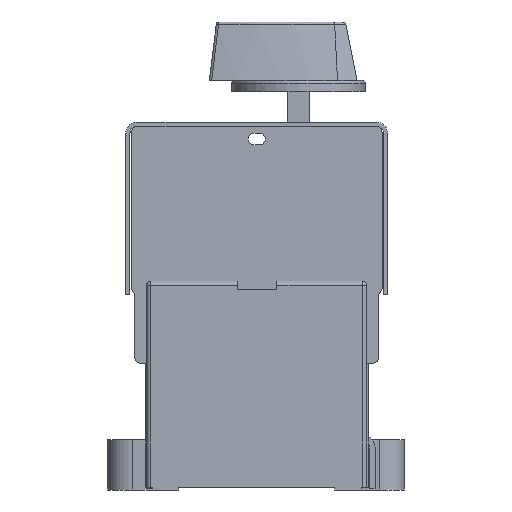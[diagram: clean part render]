
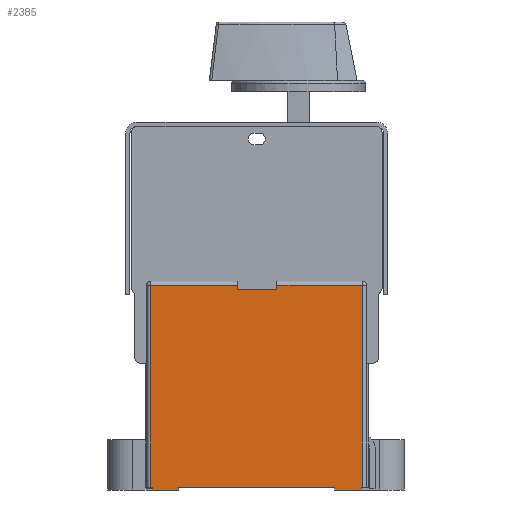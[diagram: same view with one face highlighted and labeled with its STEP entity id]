
A CAD part, left-side view. The second image highlights one B-rep face of the part: STEP entity #2385.
In plain terms, the highlighted planar face has unit normal (-1, 0, 0).
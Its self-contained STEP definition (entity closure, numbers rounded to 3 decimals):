
#2385=ADVANCED_FACE('',(#4009),#3057,.F.);
#3057=PLANE('',#21612);
#4009=FACE_OUTER_BOUND('',#5214,.T.);
#5214=EDGE_LOOP('',(#10374,#10375,#10376,#10377,#10378,#10379,#10380,#10381,
#10382,#10383,#10384,#10385,#10386,#10387,#10388,#10389));
#10374=ORIENTED_EDGE('',*,*,#15669,.F.);
#10375=ORIENTED_EDGE('',*,*,#15457,.T.);
#10376=ORIENTED_EDGE('',*,*,#15281,.T.);
#10377=ORIENTED_EDGE('',*,*,#15671,.F.);
#10378=ORIENTED_EDGE('',*,*,#15284,.T.);
#10379=ORIENTED_EDGE('',*,*,#15417,.T.);
#10380=ORIENTED_EDGE('',*,*,#15672,.T.);
#10381=ORIENTED_EDGE('',*,*,#15673,.T.);
#10382=ORIENTED_EDGE('',*,*,#15674,.F.);
#10383=ORIENTED_EDGE('',*,*,#15504,.F.);
#10384=ORIENTED_EDGE('',*,*,#15509,.T.);
#10385=ORIENTED_EDGE('',*,*,#15675,.T.);
#10386=ORIENTED_EDGE('',*,*,#15517,.F.);
#10387=ORIENTED_EDGE('',*,*,#15511,.F.);
#10388=ORIENTED_EDGE('',*,*,#15676,.T.);
#10389=ORIENTED_EDGE('',*,*,#15677,.T.);
#12651=VERTEX_POINT('',#32414);
#12652=VERTEX_POINT('',#32416);
#12654=VERTEX_POINT('',#32422);
#12655=VERTEX_POINT('',#32423);
#12743=VERTEX_POINT('',#32728);
#12744=VERTEX_POINT('',#32732);
#12790=VERTEX_POINT('',#32913);
#12791=VERTEX_POINT('',#32914);
#12795=VERTEX_POINT('',#32923);
#12796=VERTEX_POINT('',#32928);
#12797=VERTEX_POINT('',#32929);
#12800=VERTEX_POINT('',#32937);
#12895=VERTEX_POINT('',#33231);
#12896=VERTEX_POINT('',#33236);
#12897=VERTEX_POINT('',#33238);
#12898=VERTEX_POINT('',#33242);
#15281=EDGE_CURVE('',#12652,#12651,#17502,.T.);
#15284=EDGE_CURVE('',#12654,#12655,#17504,.T.);
#15417=EDGE_CURVE('',#12655,#12744,#17574,.T.);
#15457=EDGE_CURVE('',#12743,#12652,#17590,.T.);
#15504=EDGE_CURVE('',#12790,#12791,#17625,.T.);
#15509=EDGE_CURVE('',#12790,#12795,#17630,.T.);
#15511=EDGE_CURVE('',#12796,#12797,#17632,.T.);
#15517=EDGE_CURVE('',#12797,#12800,#17638,.T.);
#15669=EDGE_CURVE('',#12743,#12895,#17777,.T.);
#15671=EDGE_CURVE('',#12654,#12651,#17778,.T.);
#15672=EDGE_CURVE('',#12744,#12896,#17779,.T.);
#15673=EDGE_CURVE('',#12896,#12897,#17780,.T.);
#15674=EDGE_CURVE('',#12791,#12897,#17781,.T.);
#15675=EDGE_CURVE('',#12795,#12800,#17782,.T.);
#15676=EDGE_CURVE('',#12796,#12898,#17783,.T.);
#15677=EDGE_CURVE('',#12898,#12895,#17784,.T.);
#17502=LINE('',#32415,#19596);
#17504=LINE('',#32421,#19598);
#17574=LINE('',#32733,#19668);
#17590=LINE('',#32813,#19684);
#17625=LINE('',#32912,#19719);
#17630=LINE('',#32924,#19724);
#17632=LINE('',#32927,#19726);
#17638=LINE('',#32940,#19732);
#17777=LINE('',#33230,#19871);
#17778=LINE('',#33234,#19872);
#17779=LINE('',#33235,#19873);
#17780=LINE('',#33237,#19874);
#17781=LINE('',#33239,#19875);
#17782=LINE('',#33240,#19876);
#17783=LINE('',#33241,#19877);
#17784=LINE('',#33243,#19878);
#19596=VECTOR('',#26097,1.);
#19598=VECTOR('',#26103,1.);
#19668=VECTOR('',#26391,1.);
#19684=VECTOR('',#26503,1.);
#19719=VECTOR('',#26608,1.);
#19724=VECTOR('',#26615,1.);
#19726=VECTOR('',#26619,1.);
#19732=VECTOR('',#26627,1.);
#19871=VECTOR('',#26882,1.);
#19872=VECTOR('',#26887,1.);
#19873=VECTOR('',#26888,1.);
#19874=VECTOR('',#26889,1.);
#19875=VECTOR('',#26890,1.);
#19876=VECTOR('',#26891,1.);
#19877=VECTOR('',#26892,1.);
#19878=VECTOR('',#26893,1.);
#21612=AXIS2_PLACEMENT_3D('',#33244,#26894,#26895);
#26097=DIRECTION('',(0.,0.,-1.));
#26103=DIRECTION('',(0.,0.,1.));
#26391=DIRECTION('',(0.,1.,0.));
#26503=DIRECTION('',(0.,1.,0.));
#26608=DIRECTION('',(0.,1.,0.));
#26615=DIRECTION('',(0.,0.,1.));
#26619=DIRECTION('',(0.,1.,0.));
#26627=DIRECTION('',(0.,0.,1.));
#26882=DIRECTION('',(0.,0.,-1.));
#26887=DIRECTION('',(0.,-1.,0.));
#26888=DIRECTION('',(0.,0.,-1.));
#26889=DIRECTION('',(0.,-1.,0.));
#26890=DIRECTION('',(0.,0.,1.));
#26891=DIRECTION('',(0.,-1.,0.));
#26892=DIRECTION('',(0.,0.,1.));
#26893=DIRECTION('',(0.,-1.,0.));
#26894=DIRECTION('',(1.,0.,0.));
#26895=DIRECTION('',(0.,0.,-1.));
#32414=CARTESIAN_POINT('',(-69.,-31.985,67.));
#32415=CARTESIAN_POINT('',(-69.,-31.985,69.1));
#32416=CARTESIAN_POINT('',(-69.,-31.985,68.6));
#32421=CARTESIAN_POINT('',(-69.,-17.985,69.1));
#32422=CARTESIAN_POINT('',(-69.,-17.985,67.));
#32423=CARTESIAN_POINT('',(-69.,-17.985,68.6));
#32728=CARTESIAN_POINT('',(-69.,-62.735,68.6));
#32732=CARTESIAN_POINT('',(-69.,13.265,68.6));
#32733=CARTESIAN_POINT('',(-69.,13.265,68.6));
#32813=CARTESIAN_POINT('',(-69.,13.265,68.6));
#32912=CARTESIAN_POINT('',(-69.,3.265,-4.9));
#32913=CARTESIAN_POINT('',(-69.,3.265,-4.9));
#32914=CARTESIAN_POINT('',(-69.,12.765,-4.9));
#32923=CARTESIAN_POINT('',(-69.,3.265,-3.9));
#32924=CARTESIAN_POINT('',(-69.,3.265,-5.9));
#32927=CARTESIAN_POINT('',(-69.,-62.235,-4.9));
#32928=CARTESIAN_POINT('',(-69.,-62.235,-4.9));
#32929=CARTESIAN_POINT('',(-69.,-52.735,-4.9));
#32937=CARTESIAN_POINT('',(-69.,-52.735,-3.9));
#32940=CARTESIAN_POINT('',(-69.,-52.735,-5.9));
#33230=CARTESIAN_POINT('',(-69.,-62.735,69.1));
#33231=CARTESIAN_POINT('',(-69.,-62.735,-3.9));
#33234=CARTESIAN_POINT('',(-69.,12.765,67.));
#33235=CARTESIAN_POINT('',(-69.,13.265,69.1));
#33236=CARTESIAN_POINT('',(-69.,13.265,-3.9));
#33237=CARTESIAN_POINT('',(-69.,-62.235,-3.9));
#33238=CARTESIAN_POINT('',(-69.,12.765,-3.9));
#33239=CARTESIAN_POINT('',(-69.,12.765,-5.9));
#33240=CARTESIAN_POINT('',(-69.,-62.235,-3.9));
#33241=CARTESIAN_POINT('',(-69.,-62.235,-5.9));
#33242=CARTESIAN_POINT('',(-69.,-62.235,-3.9));
#33243=CARTESIAN_POINT('',(-69.,-62.235,-3.9));
#33244=CARTESIAN_POINT('',(-69.,-62.235,69.1));
